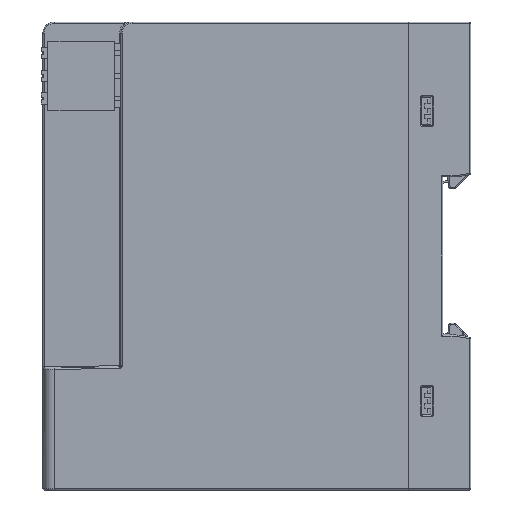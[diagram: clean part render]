
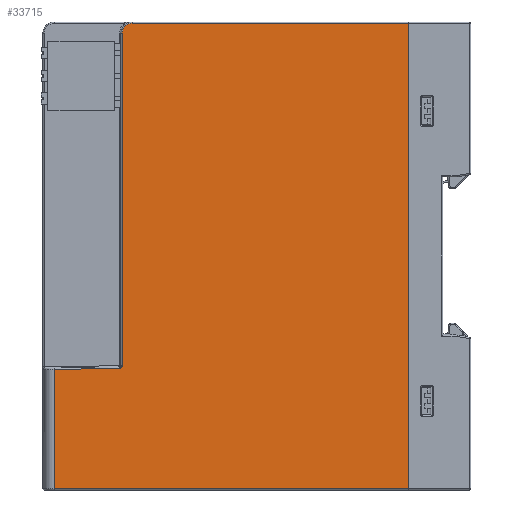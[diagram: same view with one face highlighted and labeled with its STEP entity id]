
A CAD part, left-side view. The second image highlights one B-rep face of the part: STEP entity #33715.
In plain terms, the highlighted planar face has unit normal (-1, 0, 0).
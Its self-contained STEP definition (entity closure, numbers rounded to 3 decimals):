
#20299=DIRECTION('',(0.,0.,1.));
#20300=VECTOR('',#20299,104.4);
#20301=CARTESIAN_POINT('',(-12.5,0.,-52.2));
#20302=LINE('',#20301,#20300);
#21071=CARTESIAN_POINT('',(-12.5,79.5,-25.456));
#21544=DIRECTION('',(0.,-1.,0.));
#21545=VECTOR('',#21544,79.5);
#21546=CARTESIAN_POINT('',(-12.5,79.5,-52.2));
#21547=LINE('',#21546,#21545);
#21548=DIRECTION('',(0.,0.,1.));
#21549=VECTOR('',#21548,26.744);
#21550=CARTESIAN_POINT('',(-12.5,79.5,-52.2));
#21551=LINE('',#21550,#21549);
#21552=DIRECTION('',(0.,1.,-0.017));
#21553=VECTOR('',#21552,14.713);
#21554=CARTESIAN_POINT('',(-12.5,64.79,-25.2));
#21555=LINE('',#21554,#21553);
#21556=CARTESIAN_POINT('',(-12.5,64.8,-24.6));
#21557=DIRECTION('',(1.,0.,0.));
#21558=DIRECTION('',(0.,-1.,0.));
#21559=AXIS2_PLACEMENT_3D('',#21556,#21557,#21558);
#21561=DIRECTION('',(0.,0.,1.));
#21562=VECTOR('',#21561,74.6);
#21563=CARTESIAN_POINT('',(-12.5,64.2,-24.6));
#21564=LINE('',#21563,#21562);
#21565=CARTESIAN_POINT('',(-12.5,62.,50.));
#21566=DIRECTION('',(1.,0.,0.));
#21567=DIRECTION('',(0.,1.,0.));
#21568=AXIS2_PLACEMENT_3D('',#21565,#21566,#21567);
#21570=DIRECTION('',(0.,-1.,0.));
#21571=VECTOR('',#21570,62.);
#21572=CARTESIAN_POINT('',(-12.5,62.,52.2));
#21573=LINE('',#21572,#21571);
#29755=CARTESIAN_POINT('',(-12.5,0.,-52.2));
#29757=VERTEX_POINT('',#29755);
#29761=CARTESIAN_POINT('',(-12.5,79.5,-52.2));
#29762=VERTEX_POINT('',#29761);
#29768=CARTESIAN_POINT('',(-12.5,0.,52.2));
#29770=VERTEX_POINT('',#29768);
#29771=CARTESIAN_POINT('',(-12.5,62.,52.2));
#29772=VERTEX_POINT('',#29771);
#29777=CARTESIAN_POINT('',(-12.5,64.2,50.));
#29778=VERTEX_POINT('',#29777);
#29781=CARTESIAN_POINT('',(-12.5,64.2,-24.6));
#29782=VERTEX_POINT('',#29781);
#30188=VERTEX_POINT('',#21071);
#30190=CARTESIAN_POINT('',(-12.5,64.79,-25.2));
#30191=VERTEX_POINT('',#30190);
#33696=CARTESIAN_POINT('',(-12.5,0.,-52.5));
#33697=DIRECTION('',(-1.,0.,0.));
#33698=DIRECTION('',(0.,0.,1.));
#33699=AXIS2_PLACEMENT_3D('',#33696,#33697,#33698);
#33700=PLANE('',#33699);
#33702=ORIENTED_EDGE('',*,*,#33701,.F.);
#33703=ORIENTED_EDGE('',*,*,#32827,.T.);
#33705=ORIENTED_EDGE('',*,*,#33704,.F.);
#33707=ORIENTED_EDGE('',*,*,#33706,.F.);
#33709=ORIENTED_EDGE('',*,*,#33708,.T.);
#33710=ORIENTED_EDGE('',*,*,#33676,.T.);
#33711=ORIENTED_EDGE('',*,*,#33689,.T.);
#33712=ORIENTED_EDGE('',*,*,#31963,.F.);
#33713=EDGE_LOOP('',(#33702,#33703,#33705,#33707,#33709,#33710,#33711,#33712));
#33714=FACE_OUTER_BOUND('',#33713,.F.);
#33715=ADVANCED_FACE('',(#33714),#33700,.T.);
#21560=CIRCLE('',#21559,0.6);
#21569=CIRCLE('',#21568,2.2);
#31963=EDGE_CURVE('',#29757,#29770,#20302,.T.);
#32827=EDGE_CURVE('',#29762,#30188,#21551,.T.);
#33676=EDGE_CURVE('',#29778,#29772,#21569,.T.);
#33689=EDGE_CURVE('',#29772,#29770,#21573,.T.);
#33701=EDGE_CURVE('',#29762,#29757,#21547,.T.);
#33704=EDGE_CURVE('',#30191,#30188,#21555,.T.);
#33706=EDGE_CURVE('',#29782,#30191,#21560,.T.);
#33708=EDGE_CURVE('',#29782,#29778,#21564,.T.);
